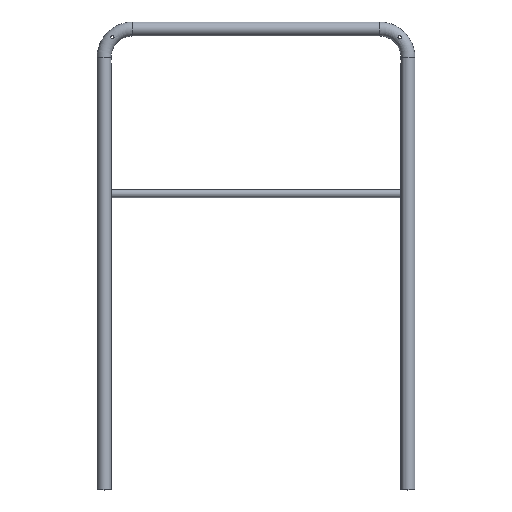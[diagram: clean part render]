
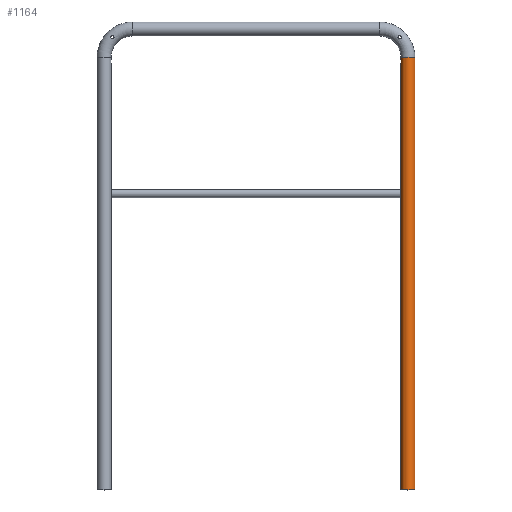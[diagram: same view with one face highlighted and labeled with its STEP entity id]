
A CAD part, top view. The second image highlights one B-rep face of the part: STEP entity #1164.
In plain terms, the highlighted cylindrical face has radius 21.2 mm (diameter 42.4 mm), a full revolution.
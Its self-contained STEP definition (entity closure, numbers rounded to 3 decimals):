
#288=CARTESIAN_POINT('',(902.526,1001.2,5.5));
#289=VERTEX_POINT('',#288);
#290=CARTESIAN_POINT('',(902.526,1001.2,5.5));
#291=CARTESIAN_POINT('',(902.526,1000.506,5.5));
#292=CARTESIAN_POINT('',(902.487,999.768,5.361));
#293=CARTESIAN_POINT('',(902.348,998.414,4.798));
#294=CARTESIAN_POINT('',(902.251,997.797,4.376));
#295=CARTESIAN_POINT('',(902.069,996.824,3.403));
#296=CARTESIAN_POINT('',(901.973,996.402,2.786));
#297=CARTESIAN_POINT('',(901.837,995.839,1.432));
#298=CARTESIAN_POINT('',(901.8,995.7,0.694));
#299=CARTESIAN_POINT('',(901.8,995.7,-0.694));
#300=CARTESIAN_POINT('',(901.837,995.839,-1.432));
#301=CARTESIAN_POINT('',(901.973,996.402,-2.786));
#302=CARTESIAN_POINT('',(902.069,996.824,-3.403));
#303=CARTESIAN_POINT('',(902.251,997.797,-4.376));
#304=CARTESIAN_POINT('',(902.348,998.414,-4.798));
#305=CARTESIAN_POINT('',(902.487,999.768,-5.361));
#306=CARTESIAN_POINT('',(902.526,1000.506,-5.5));
#307=CARTESIAN_POINT('',(902.526,1001.894,-5.5));
#308=CARTESIAN_POINT('',(902.487,1002.632,-5.361));
#309=CARTESIAN_POINT('',(902.348,1003.986,-4.798));
#310=CARTESIAN_POINT('',(902.251,1004.603,-4.376));
#311=CARTESIAN_POINT('',(902.069,1005.576,-3.403));
#312=CARTESIAN_POINT('',(901.973,1005.998,-2.786));
#313=CARTESIAN_POINT('',(901.837,1006.561,-1.432));
#314=CARTESIAN_POINT('',(901.8,1006.7,-0.694));
#315=CARTESIAN_POINT('',(901.8,1006.7,0.694));
#316=CARTESIAN_POINT('',(901.837,1006.561,1.432));
#317=CARTESIAN_POINT('',(901.973,1005.998,2.786));
#318=CARTESIAN_POINT('',(902.069,1005.576,3.403));
#319=CARTESIAN_POINT('',(902.251,1004.603,4.376));
#320=CARTESIAN_POINT('',(902.348,1003.986,4.798));
#321=CARTESIAN_POINT('',(902.487,1002.632,5.361));
#322=CARTESIAN_POINT('',(902.526,1001.894,5.5));
#323=CARTESIAN_POINT('',(902.526,1001.2,5.5));
#324=B_SPLINE_CURVE_WITH_KNOTS('',3,(#290,#291,#292,#293,#294,#295,#296,#297,#298,#299,#300,#301,#302,#303,#304,#305,#306,#307,#308,#309,#310,#311,#312,#313,#314,#315,#316,#317,#318,#319,#320,#321,#322,#323),.UNSPECIFIED.,.T.,.U.,(4,2,2,2,2,2,2,2,2,2,2,2,2,2,2,2,4),(0.0,0.208,0.416,0.625,0.833,1.041,1.249,1.457,1.666,1.874,2.082,2.29,2.498,2.707,2.915,3.123,3.331),.UNSPECIFIED.);
#325=EDGE_CURVE('',#289,#289,#324,.T.);
#417=CARTESIAN_POINT('',(943.474,1001.2,5.5));
#418=VERTEX_POINT('',#417);
#419=CARTESIAN_POINT('',(943.474,1001.2,5.5));
#420=CARTESIAN_POINT('',(943.474,1001.894,5.5));
#421=CARTESIAN_POINT('',(943.513,1002.632,5.361));
#422=CARTESIAN_POINT('',(943.652,1003.986,4.798));
#423=CARTESIAN_POINT('',(943.749,1004.603,4.376));
#424=CARTESIAN_POINT('',(943.931,1005.576,3.403));
#425=CARTESIAN_POINT('',(944.027,1005.998,2.786));
#426=CARTESIAN_POINT('',(944.163,1006.561,1.432));
#427=CARTESIAN_POINT('',(944.2,1006.7,0.694));
#428=CARTESIAN_POINT('',(944.2,1006.7,-0.694));
#429=CARTESIAN_POINT('',(944.163,1006.561,-1.432));
#430=CARTESIAN_POINT('',(944.027,1005.998,-2.786));
#431=CARTESIAN_POINT('',(943.931,1005.576,-3.403));
#432=CARTESIAN_POINT('',(943.749,1004.603,-4.376));
#433=CARTESIAN_POINT('',(943.652,1003.986,-4.798));
#434=CARTESIAN_POINT('',(943.513,1002.632,-5.361));
#435=CARTESIAN_POINT('',(943.474,1001.894,-5.5));
#436=CARTESIAN_POINT('',(943.474,1000.506,-5.5));
#437=CARTESIAN_POINT('',(943.513,999.768,-5.361));
#438=CARTESIAN_POINT('',(943.652,998.414,-4.798));
#439=CARTESIAN_POINT('',(943.749,997.797,-4.376));
#440=CARTESIAN_POINT('',(943.931,996.824,-3.403));
#441=CARTESIAN_POINT('',(944.027,996.402,-2.786));
#442=CARTESIAN_POINT('',(944.163,995.839,-1.432));
#443=CARTESIAN_POINT('',(944.2,995.7,-0.694));
#444=CARTESIAN_POINT('',(944.2,995.7,0.694));
#445=CARTESIAN_POINT('',(944.163,995.839,1.432));
#446=CARTESIAN_POINT('',(944.027,996.402,2.786));
#447=CARTESIAN_POINT('',(943.931,996.824,3.403));
#448=CARTESIAN_POINT('',(943.749,997.797,4.376));
#449=CARTESIAN_POINT('',(943.652,998.414,4.798));
#450=CARTESIAN_POINT('',(943.513,999.768,5.361));
#451=CARTESIAN_POINT('',(943.474,1000.506,5.5));
#452=CARTESIAN_POINT('',(943.474,1001.2,5.5));
#453=B_SPLINE_CURVE_WITH_KNOTS('',3,(#419,#420,#421,#422,#423,#424,#425,#426,#427,#428,#429,#430,#431,#432,#433,#434,#435,#436,#437,#438,#439,#440,#441,#442,#443,#444,#445,#446,#447,#448,#449,#450,#451,#452),.UNSPECIFIED.,.T.,.U.,(4,2,2,2,2,2,2,2,2,2,2,2,2,2,2,2,4),(0.0,0.208,0.416,0.625,0.833,1.041,1.249,1.457,1.666,1.874,2.082,2.29,2.498,2.707,2.915,3.123,3.331),.UNSPECIFIED.);
#454=EDGE_CURVE('',#418,#418,#453,.T.);
#1131=CARTESIAN_POINT('',(923.,1013.5,0.0));
#1132=DIRECTION('',(0.,-1.0,0.0));
#1133=DIRECTION('',(-1.0,0.0,0.0));
#1134=AXIS2_PLACEMENT_3D('',#1131,#1132,#1133);
#1135=CYLINDRICAL_SURFACE('',#1134,21.2);
#1136=CARTESIAN_POINT('',(944.2,-300.0,0.));
#1137=VERTEX_POINT('',#1136);
#1138=CARTESIAN_POINT('',(923.,-300.0,0.0));
#1139=DIRECTION('',(0.0,1.0,0.0));
#1140=DIRECTION('',(-1.0,0.0,0.0));
#1141=AXIS2_PLACEMENT_3D('',#1138,#1139,#1140);
#1142=CIRCLE('',#1141,21.2);
#1143=EDGE_CURVE('',#1137,#1137,#1142,.T.);
#1144=ORIENTED_EDGE('',*,*,#1143,.T.);
#1145=EDGE_LOOP('',(#1144));
#1146=FACE_OUTER_BOUND('',#1145,.T.);
#1147=ORIENTED_EDGE('',*,*,#454,.T.);
#1148=EDGE_LOOP('',(#1147));
#1149=FACE_BOUND('',#1148,.T.);
#1150=ORIENTED_EDGE('',*,*,#325,.T.);
#1151=EDGE_LOOP('',(#1150));
#1152=FACE_BOUND('',#1151,.T.);
#1153=CARTESIAN_POINT('',(944.2,1013.5,0.));
#1154=VERTEX_POINT('',#1153);
#1155=CARTESIAN_POINT('',(923.,1013.5,0.0));
#1156=DIRECTION('',(0.0,1.0,0.0));
#1157=DIRECTION('',(-1.0,0.0,0.0));
#1158=AXIS2_PLACEMENT_3D('',#1155,#1156,#1157);
#1159=CIRCLE('',#1158,21.2);
#1160=EDGE_CURVE('',#1154,#1154,#1159,.T.);
#1161=ORIENTED_EDGE('',*,*,#1160,.F.);
#1162=EDGE_LOOP('',(#1161));
#1163=FACE_BOUND('',#1162,.T.);
#1164=ADVANCED_FACE('',(#1146,#1149,#1152,#1163),#1135,.T.);
